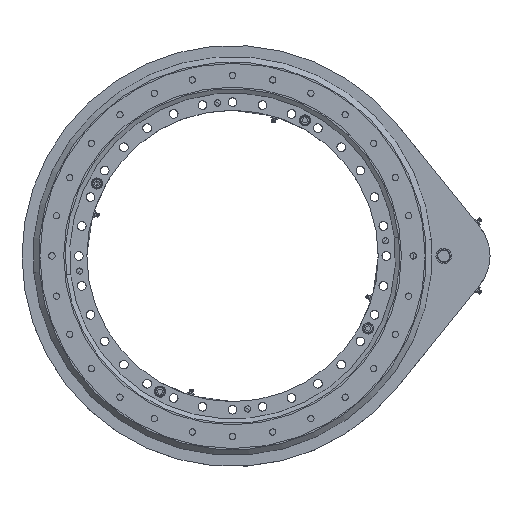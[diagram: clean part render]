
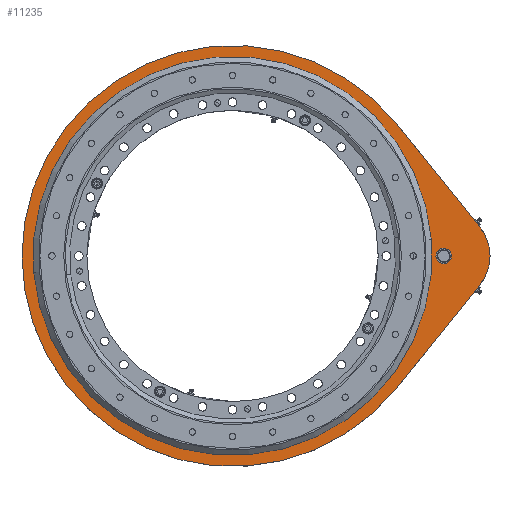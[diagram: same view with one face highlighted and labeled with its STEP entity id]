
A CAD part, top view. The second image highlights one B-rep face of the part: STEP entity #11235.
In plain terms, the highlighted planar face has unit normal (0, 0, 1).
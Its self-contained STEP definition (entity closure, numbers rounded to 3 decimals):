
#947 = FACE_OUTER_BOUND ( 'NONE', #17125, .T. ) ;
#1034 = LINE ( 'NONE', #22453, #13141 ) ;
#1237 = DIRECTION ( 'NONE',  ( 0., 0., 1. ) ) ;
#1353 = DIRECTION ( 'NONE',  ( 1., 0., 0. ) ) ;
#1958 = EDGE_CURVE ( 'NONE', #19622, #2849, #9763, .T. ) ;
#2669 = CARTESIAN_POINT ( 'NONE',  ( 222.293, -128.811, 797.5 ) ) ;
#2849 = VERTEX_POINT ( 'NONE', #15107 ) ;
#3558 = DIRECTION ( 'NONE',  ( -0.629, 0.778, 0. ) ) ;
#3833 = DIRECTION ( 'NONE',  ( -1., 0., 0. ) ) ;
#4242 = DIRECTION ( 'NONE',  ( 0., 0., -1. ) ) ;
#5100 = DIRECTION ( 'NONE',  ( 0., 0., -1. ) ) ;
#5119 = ORIENTED_EDGE ( 'NONE', *, *, #26708, .T. ) ;
#5563 = EDGE_CURVE ( 'NONE', #6289, #17891, #26464, .T. ) ;
#5790 = ORIENTED_EDGE ( 'NONE', *, *, #20438, .T. ) ;
#5811 = AXIS2_PLACEMENT_3D ( 'NONE', #17752, #13781, #11741 ) ;
#6046 = CARTESIAN_POINT ( 'NONE',  ( -42.93, 85.521, 797.5 ) ) ;
#6249 = EDGE_CURVE ( 'NONE', #17891, #6289, #25129, .T. ) ;
#6289 = VERTEX_POINT ( 'NONE', #14722 ) ;
#7479 = DIRECTION ( 'NONE',  ( 1., 0., 0. ) ) ;
#7731 = CARTESIAN_POINT ( 'NONE',  ( 276.07, 85.521, 797.5 ) ) ;
#8522 = DIRECTION ( 'NONE',  ( 0., 0., 1. ) ) ;
#8597 = CARTESIAN_POINT ( 'NONE',  ( -42.93, 85.521, 797.5 ) ) ;
#9440 = DIRECTION ( 'NONE',  ( 0.629, 0.778, 0. ) ) ;
#9763 = CIRCLE ( 'NONE', #15460, 341. ) ;
#10315 = ORIENTED_EDGE ( 'NONE', *, *, #6249, .T. ) ;
#10358 = CARTESIAN_POINT ( 'NONE',  ( -42.93, 85.521, 797.5 ) ) ;
#10387 = CIRCLE ( 'NONE', #25772, 75. ) ;
#10488 = CARTESIAN_POINT ( 'NONE',  ( 299.07, 85.521, 797.5 ) ) ;
#10639 = CARTESIAN_POINT ( 'NONE',  ( 222.293, 299.853, 797.5 ) ) ;
#10929 = CARTESIAN_POINT ( 'NONE',  ( 357.404, 132.661, 797.5 ) ) ;
#11046 = ORIENTED_EDGE ( 'NONE', *, *, #1958, .T. ) ;
#11235 = ADVANCED_FACE ( 'NONE', ( #13818, #947, #20024 ), #26384, .T. ) ;
#11312 = EDGE_CURVE ( 'NONE', #2849, #26333, #21497, .T. ) ;
#11702 = EDGE_LOOP ( 'NONE', ( #22140, #10315 ) ) ;
#11741 = DIRECTION ( 'NONE',  ( 1., 0., 0. ) ) ;
#12385 = AXIS2_PLACEMENT_3D ( 'NONE', #10488, #4242, #3833 ) ;
#12968 = VERTEX_POINT ( 'NONE', #17935 ) ;
#13141 = VECTOR ( 'NONE', #3558, 1000. ) ;
#13380 = CARTESIAN_POINT ( 'NONE',  ( 299.07, 85.521, 797.5 ) ) ;
#13628 = VERTEX_POINT ( 'NONE', #10929 ) ;
#13781 = DIRECTION ( 'NONE',  ( 0., 0., 1. ) ) ;
#13801 = AXIS2_PLACEMENT_3D ( 'NONE', #8597, #20857, #16985 ) ;
#13818 = FACE_BOUND ( 'NONE', #11702, .T. ) ;
#14722 = CARTESIAN_POINT ( 'NONE',  ( 288.57, 85.521, 797.5 ) ) ;
#14869 = CARTESIAN_POINT ( 'NONE',  ( 299.07, 85.521, 797.5 ) ) ;
#14890 = DIRECTION ( 'NONE',  ( 1., 0., 0. ) ) ;
#15107 = CARTESIAN_POINT ( 'NONE',  ( -383.93, 85.521, 797.5 ) ) ;
#15460 = AXIS2_PLACEMENT_3D ( 'NONE', #6046, #25091, #1353 ) ;
#15626 = CARTESIAN_POINT ( 'NONE',  ( 222.293, -128.811, 797.5 ) ) ;
#15699 = VECTOR ( 'NONE', #9440, 1000. ) ;
#16914 = DIRECTION ( 'NONE',  ( 1., 0., 0. ) ) ;
#16985 = DIRECTION ( 'NONE',  ( 1., 0., 0. ) ) ;
#17072 = AXIS2_PLACEMENT_3D ( 'NONE', #10358, #1237, #7479 ) ;
#17125 = EDGE_LOOP ( 'NONE', ( #11046, #18676, #21915, #5790, #5119 ) ) ;
#17752 = CARTESIAN_POINT ( 'NONE',  ( -42.93, 85.521, 797.5 ) ) ;
#17891 = VERTEX_POINT ( 'NONE', #26013 ) ;
#17935 = CARTESIAN_POINT ( 'NONE',  ( 357.404, 38.38, 797.5 ) ) ;
#18035 = DIRECTION ( 'NONE',  ( -1., 0., 0. ) ) ;
#18676 = ORIENTED_EDGE ( 'NONE', *, *, #11312, .T. ) ;
#19003 = DIRECTION ( 'NONE',  ( 0., 0., 1. ) ) ;
#19130 = VERTEX_POINT ( 'NONE', #21970 ) ;
#19188 = EDGE_CURVE ( 'NONE', #26333, #12968, #26396, .T. ) ;
#19503 = VERTEX_POINT ( 'NONE', #7731 ) ;
#19622 = VERTEX_POINT ( 'NONE', #10639 ) ;
#19694 = ORIENTED_EDGE ( 'NONE', *, *, #23750, .F. ) ;
#20024 = FACE_BOUND ( 'NONE', #24006, .T. ) ;
#20438 = EDGE_CURVE ( 'NONE', #12968, #13628, #10387, .T. ) ;
#20857 = DIRECTION ( 'NONE',  ( 0., 0., 1. ) ) ;
#21046 = EDGE_CURVE ( 'NONE', #19130, #19503, #25695, .T. ) ;
#21069 = CARTESIAN_POINT ( 'NONE',  ( -42.93, 85.521, 797.5 ) ) ;
#21497 = CIRCLE ( 'NONE', #25017, 341. ) ;
#21915 = ORIENTED_EDGE ( 'NONE', *, *, #19188, .T. ) ;
#21970 = CARTESIAN_POINT ( 'NONE',  ( -361.93, 85.521, 797.5 ) ) ;
#22097 = ORIENTED_EDGE ( 'NONE', *, *, #21046, .F. ) ;
#22140 = ORIENTED_EDGE ( 'NONE', *, *, #5563, .T. ) ;
#22453 = CARTESIAN_POINT ( 'NONE',  ( 222.293, 299.853, 797.5 ) ) ;
#23440 = CIRCLE ( 'NONE', #5811, 319. ) ;
#23750 = EDGE_CURVE ( 'NONE', #19503, #19130, #23440, .T. ) ;
#24006 = EDGE_LOOP ( 'NONE', ( #19694, #22097 ) ) ;
#25017 = AXIS2_PLACEMENT_3D ( 'NONE', #21069, #19003, #14890 ) ;
#25091 = DIRECTION ( 'NONE',  ( 0., 0., 1. ) ) ;
#25129 = CIRCLE ( 'NONE', #26461, 10.5 ) ;
#25695 = CIRCLE ( 'NONE', #13801, 319. ) ;
#25772 = AXIS2_PLACEMENT_3D ( 'NONE', #14869, #8522, #16914 ) ;
#26013 = CARTESIAN_POINT ( 'NONE',  ( 309.57, 85.521, 797.5 ) ) ;
#26333 = VERTEX_POINT ( 'NONE', #2669 ) ;
#26384 = PLANE ( 'NONE',  #17072 ) ;
#26396 = LINE ( 'NONE', #15626, #15699 ) ;
#26461 = AXIS2_PLACEMENT_3D ( 'NONE', #13380, #5100, #18035 ) ;
#26464 = CIRCLE ( 'NONE', #12385, 10.5 ) ;
#26708 = EDGE_CURVE ( 'NONE', #13628, #19622, #1034, .T. ) ;
